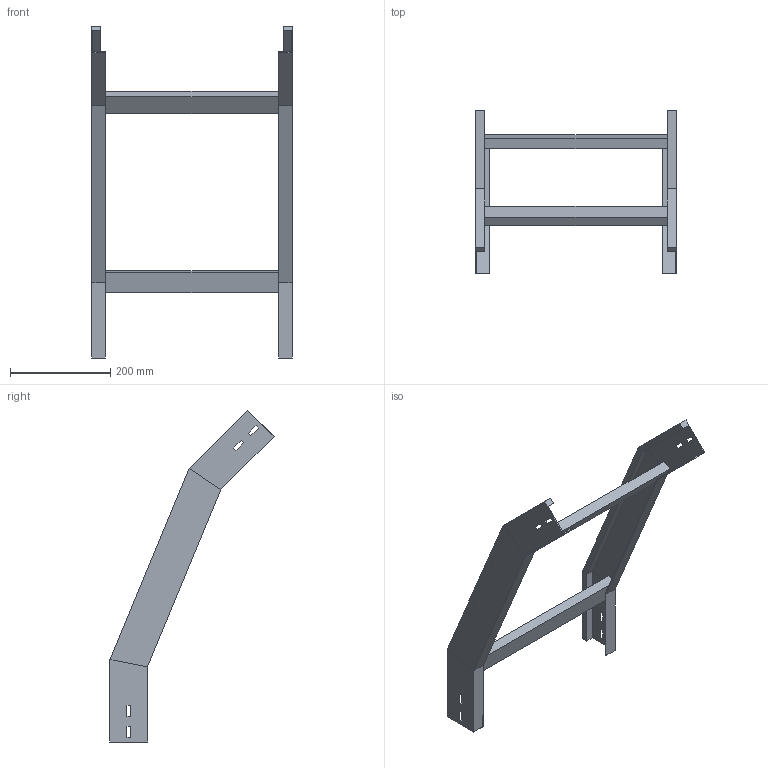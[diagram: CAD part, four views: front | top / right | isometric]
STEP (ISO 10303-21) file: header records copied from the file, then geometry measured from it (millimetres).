
FILE_DESCRIPTION (( 'STEP AP214' ), '1' );
FILE_NAME ('34B5C400.step', '2025-02-21T14:54:23', ( '' ), ( '' ), 'SwSTEP 2.0', 'SolidWorks 2023', '' );
FILE_SCHEMA (( 'AUTOMOTIVE_DESIGN' ));
Length unit declared in the file: millimetre
Products named in the file (3): LONGH.DISCESA_45°_H75_R500; 34B5C400; TRAVERSINO_400
Assembly tree (5 placements, depth 2):
  34B5C400
    LONGH.DISCESA_45°_H75_R500  x2
    TRAVERSINO_400  x3
Bounding box: 400 x 327.63 x 662.94 mm (x, y, z)
Volume: 1525400.1 mm3; surface area: 483798.9 mm2
Topology: 5 solids, 5 shells, 102 faces, 244 edges, 152 vertices
Faces by surface type: plane 102
Entity records: 1480 total; most frequent: CARTESIAN_POINT 244, ORIENTED_EDGE 232, DIRECTION 228, VECTOR 116, LINE 116, EDGE_CURVE 116, VERTEX_POINT 72, EDGE_LOOP 56
